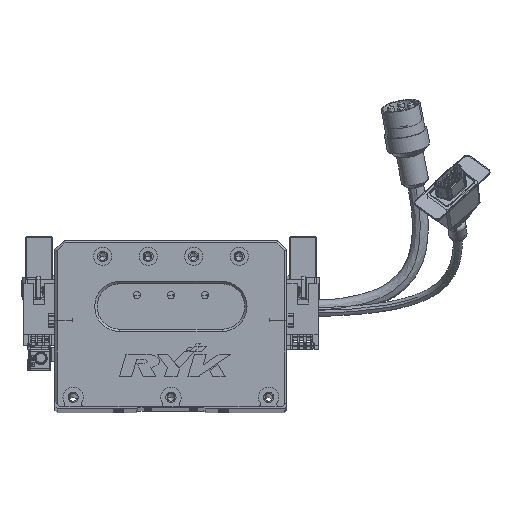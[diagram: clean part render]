
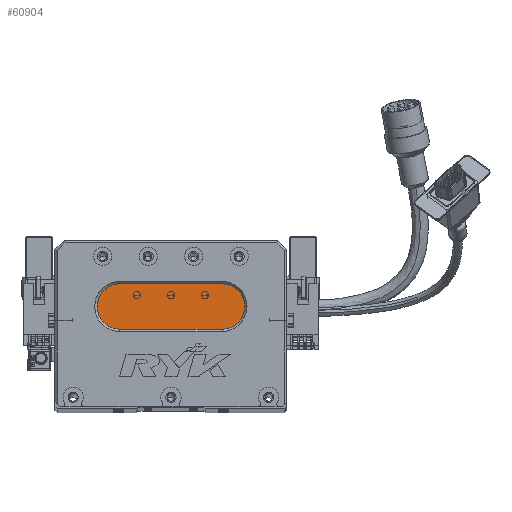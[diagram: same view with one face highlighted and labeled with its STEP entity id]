
A CAD part, top view. The second image highlights one B-rep face of the part: STEP entity #60904.
In plain terms, the highlighted planar face has unit normal (0, 0, 1) as drawn and (0, 0, -1) by its records, which use the part's own axes.
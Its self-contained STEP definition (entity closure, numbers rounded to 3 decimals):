
#1040 = DIRECTION ( 'NONE',  ( -1., 0., 0. ) ) ;
#2502 = CIRCLE ( 'NONE', #29218, 10. ) ;
#2662 = CARTESIAN_POINT ( 'NONE',  ( 73.5, 54., 13. ) ) ;
#2776 = ORIENTED_EDGE ( 'NONE', *, *, #50816, .T. ) ;
#4547 = VECTOR ( 'NONE', #24986, 1000. ) ;
#6551 = CARTESIAN_POINT ( 'NONE',  ( 28.5, 44., 13. ) ) ;
#7179 = ORIENTED_EDGE ( 'NONE', *, *, #26913, .T. ) ;
#8821 = VERTEX_POINT ( 'NONE', #45263 ) ;
#9708 = CARTESIAN_POINT ( 'NONE',  ( 28.5, 34., 13. ) ) ;
#10243 = DIRECTION ( 'NONE',  ( 0., 0., -1. ) ) ;
#12464 = ORIENTED_EDGE ( 'NONE', *, *, #62634, .T. ) ;
#16230 = CIRCLE ( 'NONE', #66628, 10. ) ;
#18410 = AXIS2_PLACEMENT_3D ( 'NONE', #19680, #56600, #45045 ) ;
#18552 = VERTEX_POINT ( 'NONE', #43461 ) ;
#19680 = CARTESIAN_POINT ( 'NONE',  ( 28.5, 44., 13. ) ) ;
#20234 = LINE ( 'NONE', #2662, #4547 ) ;
#24986 = DIRECTION ( 'NONE',  ( 1., 0., 0. ) ) ;
#25092 = EDGE_LOOP ( 'NONE', ( #47903, #2776, #61955, #12464, #7179 ) ) ;
#25627 = EDGE_CURVE ( 'NONE', #58684, #18552, #16230, .T. ) ;
#26384 = DIRECTION ( 'NONE',  ( -1., 0., 0. ) ) ;
#26913 = EDGE_CURVE ( 'NONE', #8821, #58684, #20234, .T. ) ;
#27527 = DIRECTION ( 'NONE',  ( 0., 0., -1. ) ) ;
#29218 = AXIS2_PLACEMENT_3D ( 'NONE', #6551, #27527, #1040 ) ;
#29576 = CARTESIAN_POINT ( 'NONE',  ( 73.5, 54., 13. ) ) ;
#32119 = PLANE ( 'NONE',  #48814 ) ;
#32363 = CARTESIAN_POINT ( 'NONE',  ( 73.5, 44., 13. ) ) ;
#33434 = FACE_OUTER_BOUND ( 'NONE', #25092, .T. ) ;
#34412 = VECTOR ( 'NONE', #41594, 1000. ) ;
#34924 = CARTESIAN_POINT ( 'NONE',  ( 18.5, 44., 13. ) ) ;
#37207 = DIRECTION ( 'NONE',  ( 0., 0., -1. ) ) ;
#39071 = EDGE_CURVE ( 'NONE', #61377, #49145, #2502, .T. ) ;
#41594 = DIRECTION ( 'NONE',  ( -1., 0., 0. ) ) ;
#41812 = LINE ( 'NONE', #42045, #34412 ) ;
#42045 = CARTESIAN_POINT ( 'NONE',  ( 73.5, 34., 13. ) ) ;
#42283 = DIRECTION ( 'NONE',  ( -1., 0., 0. ) ) ;
#43461 = CARTESIAN_POINT ( 'NONE',  ( 73.5, 34., 13. ) ) ;
#45045 = DIRECTION ( 'NONE',  ( -1., 0., 0. ) ) ;
#45263 = CARTESIAN_POINT ( 'NONE',  ( 28.5, 54., 13. ) ) ;
#47903 = ORIENTED_EDGE ( 'NONE', *, *, #25627, .T. ) ;
#48814 = AXIS2_PLACEMENT_3D ( 'NONE', #52459, #10243, #42283 ) ;
#49145 = VERTEX_POINT ( 'NONE', #34924 ) ;
#50816 = EDGE_CURVE ( 'NONE', #18552, #61377, #41812, .T. ) ;
#52459 = CARTESIAN_POINT ( 'NONE',  ( 73.5, 44., 13. ) ) ;
#56600 = DIRECTION ( 'NONE',  ( 0., 0., -1. ) ) ;
#58684 = VERTEX_POINT ( 'NONE', #29576 ) ;
#60904 = ADVANCED_FACE ( 'NONE', ( #33434 ), #32119, .T. ) ;
#61377 = VERTEX_POINT ( 'NONE', #9708 ) ;
#61955 = ORIENTED_EDGE ( 'NONE', *, *, #39071, .T. ) ;
#62634 = EDGE_CURVE ( 'NONE', #49145, #8821, #62917, .T. ) ;
#62917 = CIRCLE ( 'NONE', #18410, 10. ) ;
#66628 = AXIS2_PLACEMENT_3D ( 'NONE', #32363, #37207, #26384 ) ;
